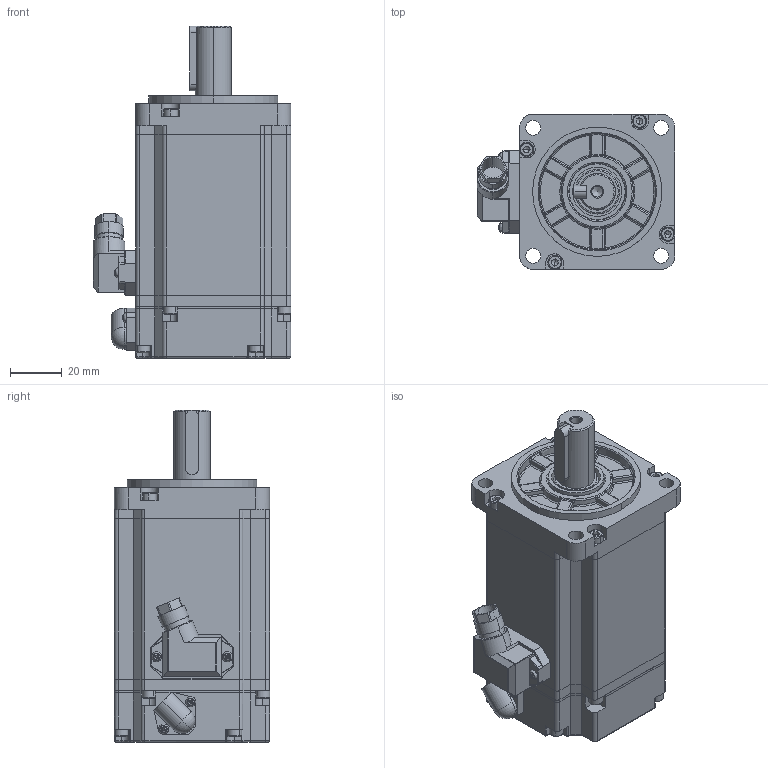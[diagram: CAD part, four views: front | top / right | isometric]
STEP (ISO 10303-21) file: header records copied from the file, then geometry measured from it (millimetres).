
FILE_DESCRIPTION(/* description */ (''),/* implementation_level */ '2;1');
FILE_NAME(/* name */ '60ASM400-5-2500C-H-48V.stp',/* time_stamp */ '2020-06-11T15:13:27+08:00',/* author */ (''),/* organization */ (''),/* preprocessor_version */ 'ST-DEVELOPER v16',/* originating_system */ 'SIEMENS PLM Software NX 10.0',/* authorisation */ '');
FILE_SCHEMA (('AP203_CONFIGURATION_CONTROLLED_3D_DESIGN_OF_MECHANICAL_PARTS_AND_ASSEMBLIES_MIM_LF { 1 0 10303 403 2 1 2}'));
Length unit declared in the file: millimetre
Products named in the file (1): Admi10985976qldm
Bounding box: 76.57 x 60.14 x 128.4 mm (x, y, z)
Volume: 180295.8 mm3; surface area: 72581.4 mm2
Topology: 25 solids, 25 shells, 1777 faces, 4163 edges, 2439 vertices
Faces by surface type: cone 561, cylinder 547, plane 514, torus 84, bspline 52, sphere 19
Full cylindrical faces by diameter (mm): 2.25 x4, 4.2 x1, 5.8 x4, 14.25 x1, 16.25 x2, 19 x1, 21.6 x1
Entity records: 52231 total; most frequent: CARTESIAN_POINT 12055, DIRECTION 8766, ORIENTED_EDGE 8182, EDGE_CURVE 4091, AXIS2_PLACEMENT_3D 3325, VERTEX_POINT 2431, LINE 2116, VECTOR 2116
